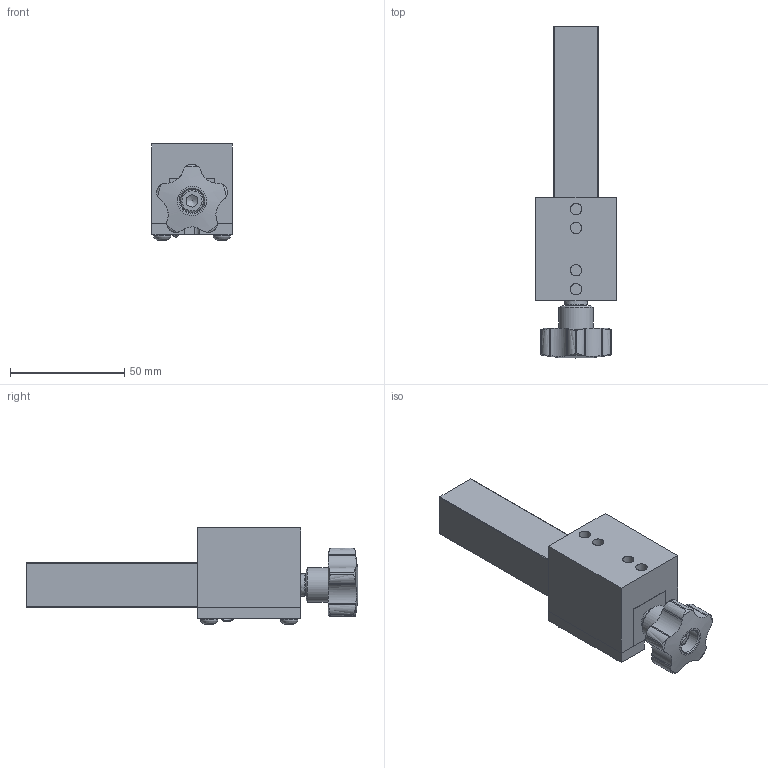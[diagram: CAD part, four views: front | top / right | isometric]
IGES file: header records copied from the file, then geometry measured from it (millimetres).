
Global section: file name: 34.00; native system: Autodesk Inventor 2021; preprocessor: unknown; author: AP.to; date: 20210711.101651; units: millimetre
Bounding box: 35 x 145 x 41.95 mm (x, y, z)
Volume: 95746.9 mm3; surface area: 35628.3 mm2
Topology: 14 solids, 14 shells, 273 faces, 758 edges, 524 vertices
Faces by surface type: bspline 273
